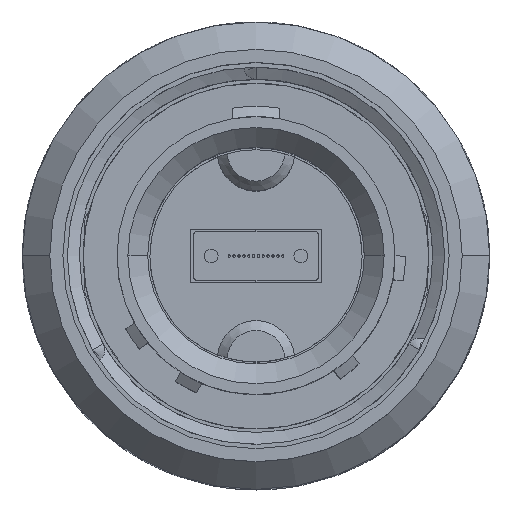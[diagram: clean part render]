
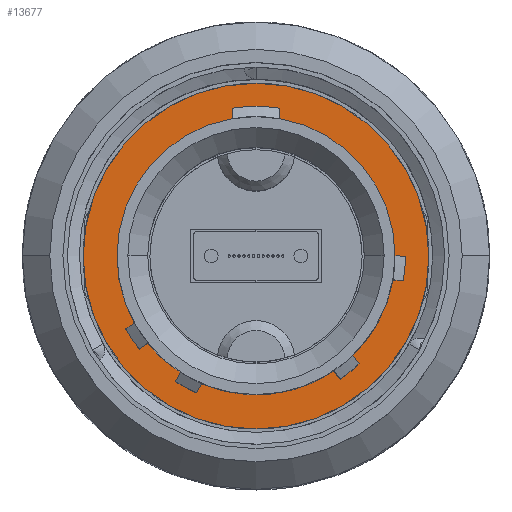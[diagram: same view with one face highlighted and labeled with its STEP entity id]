
A CAD part, top view. The second image highlights one B-rep face of the part: STEP entity #13677.
In plain terms, the highlighted planar face has unit normal (0, 0, 1).
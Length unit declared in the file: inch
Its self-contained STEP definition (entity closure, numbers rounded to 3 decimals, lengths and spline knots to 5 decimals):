
#792 = CIRCLE ( 'NONE', #7889, 0.3495 ) ;
#976 = EDGE_CURVE ( 'NONE', #12554, #7971, #792, .T. ) ;
#1241 = CARTESIAN_POINT ( 'NONE',  ( -0.3495, 0., 0.382 ) ) ;
#1324 = CIRCLE ( 'NONE', #1570, 0.276 ) ;
#1446 = EDGE_LOOP ( 'NONE', ( #13532, #14659 ) ) ;
#1570 = AXIS2_PLACEMENT_3D ( 'NONE', #8023, #5414, #5336 ) ;
#1695 = CARTESIAN_POINT ( 'NONE',  ( -0.276, 0., 0.382 ) ) ;
#2106 = CIRCLE ( 'NONE', #10727, 0.276 ) ;
#2420 = PLANE ( 'NONE',  #7566 ) ;
#2501 = CARTESIAN_POINT ( 'NONE',  ( 0., 0.276, 0.382 ) ) ;
#2668 = DIRECTION ( 'NONE',  ( 0., 0., 1. ) ) ;
#3448 = CARTESIAN_POINT ( 'NONE',  ( 0.3495, 0., 0.382 ) ) ;
#3582 = EDGE_CURVE ( 'NONE', #8949, #8312, #1324, .T. ) ;
#4248 = DIRECTION ( 'NONE',  ( 1., 0., 0. ) ) ;
#4882 = EDGE_CURVE ( 'NONE', #8312, #8949, #2106, .T. ) ;
#5049 = CARTESIAN_POINT ( 'NONE',  ( 0., 0., 0.382 ) ) ;
#5120 = FACE_BOUND ( 'NONE', #1446, .T. ) ;
#5291 = AXIS2_PLACEMENT_3D ( 'NONE', #5049, #2668, #9881 ) ;
#5336 = DIRECTION ( 'NONE',  ( 1., 0., 0. ) ) ;
#5414 = DIRECTION ( 'NONE',  ( 0., 0., 1. ) ) ;
#6058 = DIRECTION ( 'NONE',  ( 0., 0., 1. ) ) ;
#6703 = EDGE_CURVE ( 'NONE', #7971, #12554, #15438, .T. ) ;
#7277 = DIRECTION ( 'NONE',  ( 0., 0., -1. ) ) ;
#7410 = CARTESIAN_POINT ( 'NONE',  ( 0., 0., 0.382 ) ) ;
#7429 = FACE_OUTER_BOUND ( 'NONE', #14274, .T. ) ;
#7566 = AXIS2_PLACEMENT_3D ( 'NONE', #2501, #7277, #12112 ) ;
#7889 = AXIS2_PLACEMENT_3D ( 'NONE', #11710, #15366, #4248 ) ;
#7971 = VERTEX_POINT ( 'NONE', #3448 ) ;
#8023 = CARTESIAN_POINT ( 'NONE',  ( 0., 0., 0.382 ) ) ;
#8312 = VERTEX_POINT ( 'NONE', #1695 ) ;
#8783 = ORIENTED_EDGE ( 'NONE', *, *, #976, .T. ) ;
#8949 = VERTEX_POINT ( 'NONE', #15354 ) ;
#9881 = DIRECTION ( 'NONE',  ( 1., 0., 0. ) ) ;
#10727 = AXIS2_PLACEMENT_3D ( 'NONE', #7410, #6058, #10901 ) ;
#10901 = DIRECTION ( 'NONE',  ( 1., 0., 0. ) ) ;
#11710 = CARTESIAN_POINT ( 'NONE',  ( 0., 0., 0.382 ) ) ;
#12112 = DIRECTION ( 'NONE',  ( -1., 0., 0. ) ) ;
#12554 = VERTEX_POINT ( 'NONE', #1241 ) ;
#13532 = ORIENTED_EDGE ( 'NONE', *, *, #3582, .F. ) ;
#13677 = ADVANCED_FACE ( 'NONE', ( #5120, #7429 ), #2420, .F. ) ;
#14274 = EDGE_LOOP ( 'NONE', ( #15229, #8783 ) ) ;
#14659 = ORIENTED_EDGE ( 'NONE', *, *, #4882, .F. ) ;
#15229 = ORIENTED_EDGE ( 'NONE', *, *, #6703, .T. ) ;
#15354 = CARTESIAN_POINT ( 'NONE',  ( 0.276, 0., 0.382 ) ) ;
#15366 = DIRECTION ( 'NONE',  ( 0., 0., 1. ) ) ;
#15438 = CIRCLE ( 'NONE', #5291, 0.3495 ) ;
